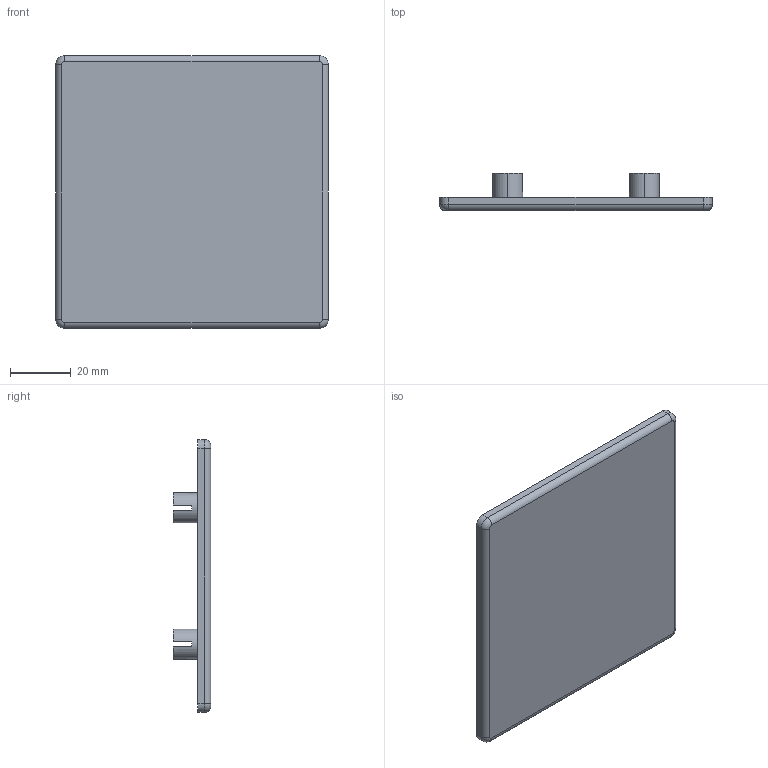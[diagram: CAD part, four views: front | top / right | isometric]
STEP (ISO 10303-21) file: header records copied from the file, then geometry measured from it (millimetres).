
FILE_DESCRIPTION (( 'STEP AP203' ), '1' );
FILE_NAME ('EC90X90.STEP', '2018-03-15T12:41:44', ( '' ), ( '' ), 'SwSTEP 2.0', 'SolidWorks 2013', '' );
FILE_SCHEMA (( 'CONFIG_CONTROL_DESIGN' ));
Length unit declared in the file: millimetre
Products named in the file (1): EC90X90
Bounding box: 90 x 12.3 x 90 mm (x, y, z)
Volume: 29101.8 mm3; surface area: 19599.5 mm2
Topology: 1 solids, 1 shells, 79 faces, 204 edges, 132 vertices
Faces by surface type: plane 47, cylinder 24, cone 4, torus 4
Entity records: 2507 total; most frequent: DIRECTION 452, CARTESIAN_POINT 416, ORIENTED_EDGE 408, EDGE_CURVE 204, AXIS2_PLACEMENT_3D 168, VERTEX_POINT 132, LINE 116, VECTOR 116
